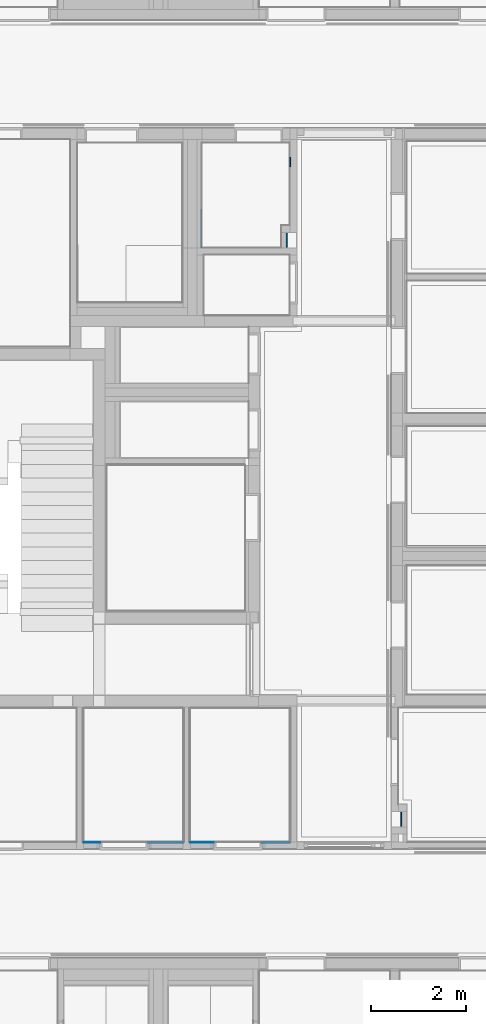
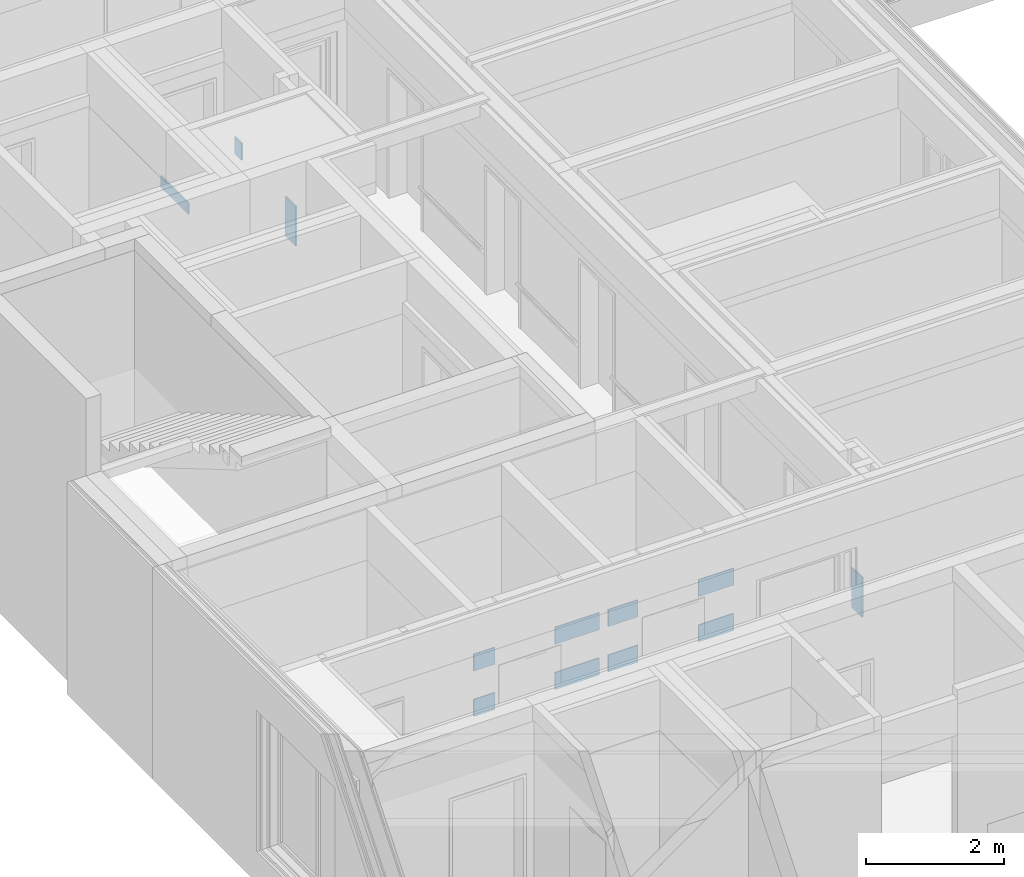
# One storey, part 147 of 222: 12 walls.
"""IFC4 building model written with IfcOpenShell, lengths in metres."""

from ifc_helpers import new_model, entity, si_unit, converted_unit, derived_unit, frame, origin, place, context, subcontext, project, spatial, faceted_brep, element, save


model = new_model("IFC4")

# Units and contexts
model_context = context("Model", 3, precision=1e-05, world=origin())
body_context = subcontext(model_context, "Body", "Model", "MODEL_VIEW")
ifc_project = project(units=[si_unit("LENGTHUNIT", "METRE"), si_unit("AREAUNIT", "SQUARE_METRE"), si_unit("VOLUMEUNIT", "CUBIC_METRE"), si_unit("MASSUNIT", "GRAM", prefix="KILO"), converted_unit("PLANEANGLEUNIT", "DEGREE", entity("IfcPlaneAngleMeasure", 0.0174532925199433), si_unit("PLANEANGLEUNIT", "RADIAN"), dimensions=[0, 0, 0, 0, 0, 0, 0]), derived_unit("THERMALTRANSMITTANCEUNIT", [(si_unit("POWERUNIT", "WATT"), 1), (si_unit("THERMODYNAMICTEMPERATUREUNIT", "KELVIN"), -1), (si_unit("LENGTHUNIT", "METRE"), -2)]), derived_unit("VOLUMETRICFLOWRATEUNIT", [(si_unit("LENGTHUNIT", "METRE"), 3), (converted_unit("TIMEUNIT", "hour", entity("IfcTimeMeasure", 3600.0), si_unit("TIMEUNIT", "SECOND"), dimensions=[0, 0, 1, 0, 0, 0, 0]), -1), (si_unit("LENGTHUNIT", "METRE"), -1)])], contexts=[model_context])

# Site, building, storey
site_placement = place(None, origin())
site = spatial("IfcSite", under=ifc_project, at=site_placement, Name="Psychiatrie Neubau Wunstorf", CompositionType="ELEMENT")
building_placement = place(site_placement, origin())
building = spatial("IfcBuilding", under=site, at=building_placement, Name="Neubau H2 Stationsgebäude", CompositionType="ELEMENT")
storey_placement = place(building_placement, frame((0.0, 0.0, 3.6)))
storey = spatial("IfcBuildingStorey", under=building, at=storey_placement, Name="H2 Ebene +1", CompositionType="ELEMENT", Elevation=3.6)

# Walls
wall_1_placement = place(storey_placement, frame((7.77499350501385, 21.029, 1.21)))
element("IfcWall", 1, at=wall_1_placement, inside=storey, Name="WV 1.1", context=body_context, shape_type="Brep", body=[
    faceted_brep([(0.025, 0.2, 0.0), (0.0, 0.2, 0.0), (0.0, 0.0, 0.0), (0.025, 0.0, 0.0), (0.0, 0.2, 0.3), (0.025, 0.2, 0.3), (0.025, 0.0, 0.3), (0.0, 0.0, 0.3)], [[[0, 1, 2, 3]], [[4, 5, 6, 7]], [[1, 0, 5, 4]], [[2, 1, 4, 7]], [[3, 2, 7, 6]], [[0, 3, 6, 5]]], orient=[[False], [False], [False], [False], [False], [False]]),
])
wall_2_placement = place(storey_placement, frame((5.89551612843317, 19.3150163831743, 1.95)))
element("IfcWall", 2, at=wall_2_placement, inside=storey, Name="WV 1.1", context=body_context, shape_type="Brep", body=[
    faceted_brep([(0.025, 0.8, 0.0), (0.0, 0.8, 0.0), (0.0, 0.0, 0.0), (0.025, 0.0, 0.0), (0.0, 0.8, 0.2), (0.025, 0.8, 0.2), (0.025, 0.0, 0.2), (0.0, 0.0, 0.2)], [[[0, 1, 2, 3]], [[4, 5, 6, 7]], [[1, 0, 5, 4]], [[2, 1, 4, 7]], [[3, 2, 7, 6]], [[0, 3, 6, 5]]], orient=[[False], [False], [False], [False], [False], [False]]),
])
for number, where, name in (
    (3, (10.1175000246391, 7.10249989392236, 0.75), "WV 1.1"),
    (4, (7.7, 19.3275163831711, 0.75), "WV 1.1"),
):
    element("IfcWall", number, at=place(storey_placement, frame(where)), inside=storey, Name=name, context=body_context, shape_type="Brep", body=[
        faceted_brep([(0.025, 0.3, 0.0), (0.0, 0.3, 0.0), (0.0, 0.0, 0.0), (0.025, 0.0, 0.0), (0.0, 0.3, 0.7), (0.025, 0.3, 0.7), (0.025, 0.0, 0.7), (0.0, 0.0, 0.7)], [[[0, 1, 2, 3]], [[4, 5, 6, 7]], [[1, 0, 5, 4]], [[2, 1, 4, 7]], [[3, 2, 7, 6]], [[0, 3, 6, 5]]], orient=[[False], [False], [False], [False], [False], [False]]),
    ])
for number, where, name in (
    (5, (3.425, 6.75699989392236, 2.35), "WV 1.1"),
    (6, (3.425, 6.75699989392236, 1.55), "WV 1.1"),
):
    element("IfcWall", number, at=place(storey_placement, frame(where)), inside=storey, Name=name, context=body_context, shape_type="Brep", body=[
        faceted_brep([(0.35, 0.0, 0.0), (0.35, 0.018, 0.0), (0.0, 0.018, 0.0), (0.0, 0.0, 0.0), (0.35, 0.018, 0.3), (0.35, 0.0, 0.3), (0.0, 0.0, 0.3), (0.0, 0.018, 0.3)], [[[0, 1, 2, 3]], [[4, 5, 6, 7]], [[1, 0, 5, 4]], [[2, 1, 4, 7]], [[3, 2, 7, 6]], [[0, 3, 6, 5]]], orient=[[False], [False], [False], [False], [False], [False]]),
    ])
for number, where, name in (
    (7, (7.185, 6.75700025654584, 2.35), "WV 1.1"),
    (8, (7.185, 6.75700025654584, 1.55), "WV 1.1"),
):
    element("IfcWall", number, at=place(storey_placement, frame(where)), inside=storey, Name=name, context=body_context, shape_type="Brep", body=[
        faceted_brep([(0.59, 0.0, 0.0), (0.59, 0.018, 0.0), (0.0, 0.018, 0.0), (0.0, 0.0, 0.0), (0.59, 0.018, 0.3), (0.59, 0.0, 0.3), (0.0, 0.0, 0.3), (0.0, 0.018, 0.3)], [[[0, 1, 2, 3]], [[4, 5, 6, 7]], [[1, 0, 5, 4]], [[2, 1, 4, 7]], [[3, 2, 7, 6]], [[0, 3, 6, 5]]], orient=[[False], [False], [False], [False], [False], [False]]),
    ])
for number, where, name in (
    (9, (5.675, 6.75699989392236, 2.35), "WV 1.1"),
    (10, (5.675, 6.75699989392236, 1.55), "WV 1.1"),
):
    element("IfcWall", number, at=place(storey_placement, frame(where)), inside=storey, Name=name, context=body_context, shape_type="Brep", body=[
        faceted_brep([(0.5, 0.0, 0.0), (0.5, 0.018, 0.0), (0.0, 0.018, 0.0), (0.0, 0.0, 0.0), (0.5, 0.018, 0.3), (0.5, 0.0, 0.3), (0.0, 0.0, 0.3), (0.0, 0.018, 0.3)], [[[0, 1, 2, 3]], [[4, 5, 6, 7]], [[1, 0, 5, 4]], [[2, 1, 4, 7]], [[3, 2, 7, 6]], [[0, 3, 6, 5]]], orient=[[False], [False], [False], [False], [False], [False]]),
    ])
for number, where, name in (
    (11, (4.785, 6.75700025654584, 2.35), "WV 1.1"),
    (12, (4.785, 6.75700025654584, 1.55), "WV 1.1"),
):
    element("IfcWall", number, at=place(storey_placement, frame(where)), inside=storey, Name=name, context=body_context, shape_type="Brep", body=[
        faceted_brep([(0.74, 0.0, 0.0), (0.74, 0.018, 0.0), (0.0, 0.018, 0.0), (0.0, 0.0, 0.0), (0.74, 0.018, 0.3), (0.74, 0.0, 0.3), (0.0, 0.0, 0.3), (0.0, 0.018, 0.3)], [[[0, 1, 2, 3]], [[4, 5, 6, 7]], [[1, 0, 5, 4]], [[2, 1, 4, 7]], [[3, 2, 7, 6]], [[0, 3, 6, 5]]], orient=[[False], [False], [False], [False], [False], [False]]),
    ])

save(model, "model.ifc")
